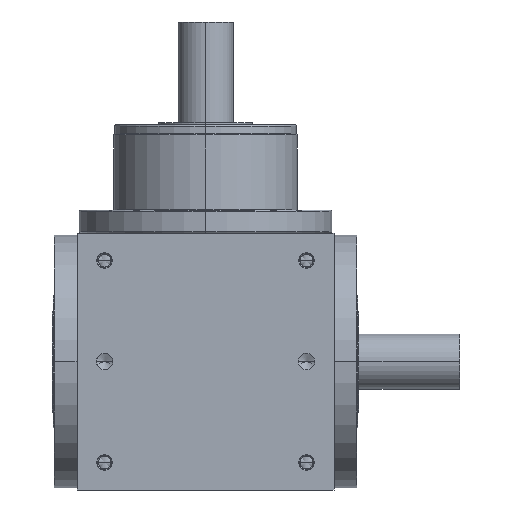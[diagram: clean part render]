
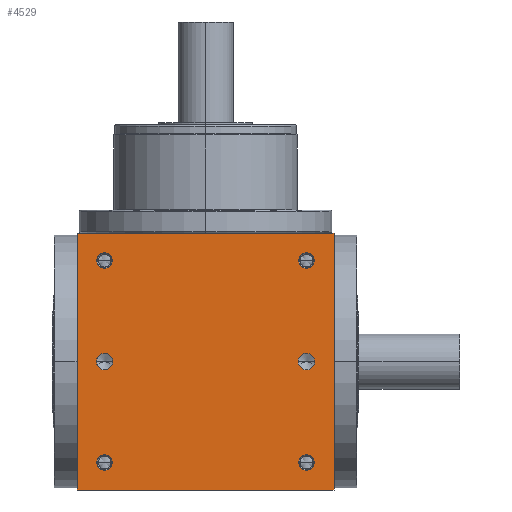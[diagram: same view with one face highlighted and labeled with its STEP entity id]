
A CAD part, front view. The second image highlights one B-rep face of the part: STEP entity #4529.
In plain terms, the highlighted planar face has unit normal (0, -1, 0).
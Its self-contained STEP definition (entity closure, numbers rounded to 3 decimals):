
#5=DIRECTION('',(1.,0.,0.));
#6=VECTOR('',#5,280.);
#7=CARTESIAN_POINT('',(-140.,-140.,-140.));
#8=LINE('',#7,#6);
#155=DIRECTION('',(0.,0.,1.));
#156=VECTOR('',#155,280.);
#157=CARTESIAN_POINT('',(140.,-140.,-140.));
#158=LINE('',#157,#156);
#209=DIRECTION('',(0.,0.,1.));
#210=VECTOR('',#209,280.);
#211=CARTESIAN_POINT('',(-140.,-140.,-140.));
#212=LINE('',#211,#210);
#213=CARTESIAN_POINT('',(110.,-140.,110.));
#214=DIRECTION('',(0.,1.,0.));
#215=DIRECTION('',(-1.,0.,0.));
#216=AXIS2_PLACEMENT_3D('',#213,#214,#215);
#218=CARTESIAN_POINT('',(110.,-140.,110.));
#219=DIRECTION('',(0.,1.,0.));
#220=DIRECTION('',(1.,0.,0.));
#221=AXIS2_PLACEMENT_3D('',#218,#219,#220);
#223=CARTESIAN_POINT('',(-110.,-140.,110.));
#224=DIRECTION('',(0.,1.,0.));
#225=DIRECTION('',(-1.,0.,0.));
#226=AXIS2_PLACEMENT_3D('',#223,#224,#225);
#228=CARTESIAN_POINT('',(-110.,-140.,110.));
#229=DIRECTION('',(0.,1.,0.));
#230=DIRECTION('',(1.,0.,0.));
#231=AXIS2_PLACEMENT_3D('',#228,#229,#230);
#233=CARTESIAN_POINT('',(110.,-140.,-110.));
#234=DIRECTION('',(0.,1.,0.));
#235=DIRECTION('',(-1.,0.,0.));
#236=AXIS2_PLACEMENT_3D('',#233,#234,#235);
#238=CARTESIAN_POINT('',(110.,-140.,-110.));
#239=DIRECTION('',(0.,1.,0.));
#240=DIRECTION('',(1.,0.,0.));
#241=AXIS2_PLACEMENT_3D('',#238,#239,#240);
#243=CARTESIAN_POINT('',(-110.,-140.,-110.));
#244=DIRECTION('',(0.,1.,0.));
#245=DIRECTION('',(-1.,0.,0.));
#246=AXIS2_PLACEMENT_3D('',#243,#244,#245);
#248=CARTESIAN_POINT('',(-110.,-140.,-110.));
#249=DIRECTION('',(0.,1.,0.));
#250=DIRECTION('',(1.,0.,0.));
#251=AXIS2_PLACEMENT_3D('',#248,#249,#250);
#253=CARTESIAN_POINT('',(-110.,-140.,0.));
#254=DIRECTION('',(0.,1.,0.));
#255=DIRECTION('',(1.,0.,0.));
#256=AXIS2_PLACEMENT_3D('',#253,#254,#255);
#258=CARTESIAN_POINT('',(-110.,-140.,0.));
#259=DIRECTION('',(0.,1.,0.));
#260=DIRECTION('',(-1.,0.,0.));
#261=AXIS2_PLACEMENT_3D('',#258,#259,#260);
#263=CARTESIAN_POINT('',(110.,-140.,0.));
#264=DIRECTION('',(0.,1.,0.));
#265=DIRECTION('',(1.,0.,0.));
#266=AXIS2_PLACEMENT_3D('',#263,#264,#265);
#268=CARTESIAN_POINT('',(110.,-140.,0.));
#269=DIRECTION('',(0.,1.,0.));
#270=DIRECTION('',(-1.,0.,0.));
#271=AXIS2_PLACEMENT_3D('',#268,#269,#270);
#285=DIRECTION('',(1.,0.,0.));
#286=VECTOR('',#285,280.);
#287=CARTESIAN_POINT('',(-140.,-140.,140.));
#288=LINE('',#287,#286);
#3610=CARTESIAN_POINT('',(-140.,-140.,-140.));
#3612=VERTEX_POINT('',#3610);
#3613=CARTESIAN_POINT('',(140.,-140.,-140.));
#3614=VERTEX_POINT('',#3613);
#3618=CARTESIAN_POINT('',(-140.,-140.,140.));
#3620=VERTEX_POINT('',#3618);
#3621=CARTESIAN_POINT('',(140.,-140.,140.));
#3622=VERTEX_POINT('',#3621);
#3793=CARTESIAN_POINT('',(101.6,-140.,110.));
#3794=CARTESIAN_POINT('',(118.4,-140.,110.));
#3795=VERTEX_POINT('',#3793);
#3796=VERTEX_POINT('',#3794);
#3801=CARTESIAN_POINT('',(-118.4,-140.,110.));
#3802=CARTESIAN_POINT('',(-101.6,-140.,110.));
#3803=VERTEX_POINT('',#3801);
#3804=VERTEX_POINT('',#3802);
#3809=CARTESIAN_POINT('',(101.6,-140.,-110.));
#3810=CARTESIAN_POINT('',(118.4,-140.,-110.));
#3811=VERTEX_POINT('',#3809);
#3812=VERTEX_POINT('',#3810);
#3817=CARTESIAN_POINT('',(-118.4,-140.,-110.));
#3818=CARTESIAN_POINT('',(-101.6,-140.,-110.));
#3819=VERTEX_POINT('',#3817);
#3820=VERTEX_POINT('',#3818);
#4159=CARTESIAN_POINT('',(-100.95,-140.,0.));
#4160=CARTESIAN_POINT('',(-119.05,-140.,0.));
#4161=VERTEX_POINT('',#4159);
#4162=VERTEX_POINT('',#4160);
#4167=CARTESIAN_POINT('',(119.05,-140.,0.));
#4168=CARTESIAN_POINT('',(100.95,-140.,0.));
#4169=VERTEX_POINT('',#4167);
#4170=VERTEX_POINT('',#4168);
#4481=CARTESIAN_POINT('',(-140.,-140.,-140.));
#4482=DIRECTION('',(0.,-1.,0.));
#4483=DIRECTION('',(1.,0.,0.));
#4484=AXIS2_PLACEMENT_3D('',#4481,#4482,#4483);
#4485=PLANE('',#4484);
#4486=ORIENTED_EDGE('',*,*,#4321,.F.);
#4487=ORIENTED_EDGE('',*,*,#4364,.T.);
#4489=ORIENTED_EDGE('',*,*,#4488,.T.);
#4490=ORIENTED_EDGE('',*,*,#4443,.F.);
#4491=EDGE_LOOP('',(#4486,#4487,#4489,#4490));
#4492=FACE_OUTER_BOUND('',#4491,.F.);
#4494=ORIENTED_EDGE('',*,*,#4493,.F.);
#4496=ORIENTED_EDGE('',*,*,#4495,.F.);
#4497=EDGE_LOOP('',(#4494,#4496));
#4498=FACE_BOUND('',#4497,.F.);
#4500=ORIENTED_EDGE('',*,*,#4499,.F.);
#4502=ORIENTED_EDGE('',*,*,#4501,.F.);
#4503=EDGE_LOOP('',(#4500,#4502));
#4504=FACE_BOUND('',#4503,.F.);
#4506=ORIENTED_EDGE('',*,*,#4505,.F.);
#4508=ORIENTED_EDGE('',*,*,#4507,.F.);
#4509=EDGE_LOOP('',(#4506,#4508));
#4510=FACE_BOUND('',#4509,.F.);
#4512=ORIENTED_EDGE('',*,*,#4511,.F.);
#4514=ORIENTED_EDGE('',*,*,#4513,.F.);
#4515=EDGE_LOOP('',(#4512,#4514));
#4516=FACE_BOUND('',#4515,.F.);
#4518=ORIENTED_EDGE('',*,*,#4517,.F.);
#4520=ORIENTED_EDGE('',*,*,#4519,.F.);
#4521=EDGE_LOOP('',(#4518,#4520));
#4522=FACE_BOUND('',#4521,.F.);
#4524=ORIENTED_EDGE('',*,*,#4523,.F.);
#4526=ORIENTED_EDGE('',*,*,#4525,.F.);
#4527=EDGE_LOOP('',(#4524,#4526));
#4528=FACE_BOUND('',#4527,.F.);
#4529=ADVANCED_FACE('',(#4492,#4498,#4504,#4510,#4516,#4522,#4528),#4485,.T.);
#217=CIRCLE('',#216,8.4);
#222=CIRCLE('',#221,8.4);
#227=CIRCLE('',#226,8.4);
#232=CIRCLE('',#231,8.4);
#237=CIRCLE('',#236,8.4);
#242=CIRCLE('',#241,8.4);
#247=CIRCLE('',#246,8.4);
#252=CIRCLE('',#251,8.4);
#257=CIRCLE('',#256,9.05);
#262=CIRCLE('',#261,9.05);
#267=CIRCLE('',#266,9.05);
#272=CIRCLE('',#271,9.05);
#4321=EDGE_CURVE('',#3612,#3614,#8,.T.);
#4364=EDGE_CURVE('',#3612,#3620,#212,.T.);
#4443=EDGE_CURVE('',#3614,#3622,#158,.T.);
#4488=EDGE_CURVE('',#3620,#3622,#288,.T.);
#4493=EDGE_CURVE('',#3795,#3796,#217,.T.);
#4495=EDGE_CURVE('',#3796,#3795,#222,.T.);
#4499=EDGE_CURVE('',#3803,#3804,#227,.T.);
#4501=EDGE_CURVE('',#3804,#3803,#232,.T.);
#4505=EDGE_CURVE('',#3811,#3812,#237,.T.);
#4507=EDGE_CURVE('',#3812,#3811,#242,.T.);
#4511=EDGE_CURVE('',#3819,#3820,#247,.T.);
#4513=EDGE_CURVE('',#3820,#3819,#252,.T.);
#4517=EDGE_CURVE('',#4161,#4162,#257,.T.);
#4519=EDGE_CURVE('',#4162,#4161,#262,.T.);
#4523=EDGE_CURVE('',#4169,#4170,#267,.T.);
#4525=EDGE_CURVE('',#4170,#4169,#272,.T.);
